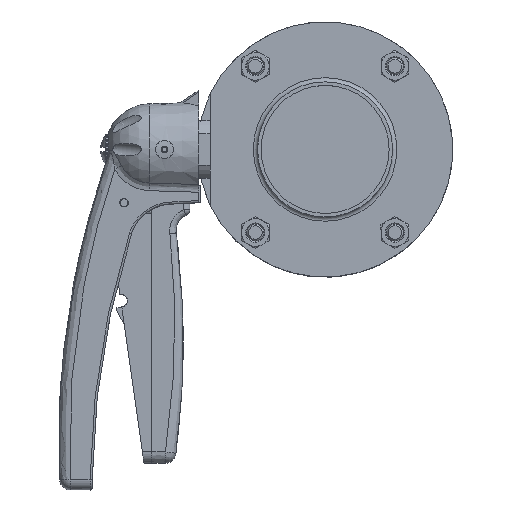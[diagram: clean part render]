
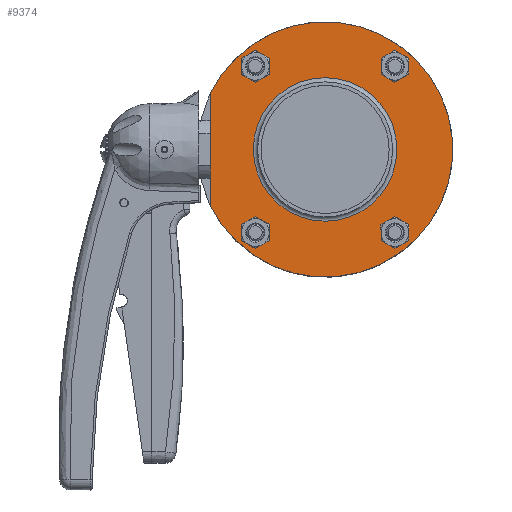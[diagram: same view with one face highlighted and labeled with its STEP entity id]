
A CAD part, top view. The second image highlights one B-rep face of the part: STEP entity #9374.
In plain terms, the highlighted planar face has unit normal (0, 0, 1) as drawn and (1, 0, 0) by its records, which use the part's own axes.
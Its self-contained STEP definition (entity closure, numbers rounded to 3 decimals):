
#1153=FACE_BOUND('',#1789,.T.);
#1154=FACE_BOUND('',#1790,.T.);
#1155=FACE_BOUND('',#1791,.T.);
#1156=FACE_BOUND('',#1792,.T.);
#1157=FACE_BOUND('',#1793,.T.);
#1226=FACE_OUTER_BOUND('',#1788,.T.);
#1788=EDGE_LOOP('',(#6477,#6478));
#1789=EDGE_LOOP('',(#6479,#6480));
#1790=EDGE_LOOP('',(#6481,#6482));
#1791=EDGE_LOOP('',(#6483,#6484));
#1792=EDGE_LOOP('',(#6485,#6486));
#1793=EDGE_LOOP('',(#6487,#6488));
#2368=LINE('',#13637,#2990);
#2990=VECTOR('',#11159,10.);
#3630=CIRCLE('',#10126,60.);
#3637=CIRCLE('',#10135,4.25);
#3638=CIRCLE('',#10136,4.25);
#3639=CIRCLE('',#10138,4.25);
#3640=CIRCLE('',#10139,4.25);
#3641=CIRCLE('',#10141,4.25);
#3642=CIRCLE('',#10142,4.25);
#3643=CIRCLE('',#10144,4.25);
#3644=CIRCLE('',#10145,4.25);
#3645=CIRCLE('',#10147,33.75);
#3646=CIRCLE('',#10148,33.75);
#4053=VERTEX_POINT('',#13635);
#4054=VERTEX_POINT('',#13636);
#4063=VERTEX_POINT('',#13660);
#4064=VERTEX_POINT('',#13661);
#4065=VERTEX_POINT('',#13666);
#4066=VERTEX_POINT('',#13667);
#4067=VERTEX_POINT('',#13672);
#4068=VERTEX_POINT('',#13673);
#4069=VERTEX_POINT('',#13678);
#4070=VERTEX_POINT('',#13679);
#4071=VERTEX_POINT('',#13684);
#4072=VERTEX_POINT('',#13685);
#4969=EDGE_CURVE('',#4053,#4054,#2368,.T.);
#4974=EDGE_CURVE('',#4054,#4053,#3630,.T.);
#4981=EDGE_CURVE('',#4063,#4064,#3637,.T.);
#4982=EDGE_CURVE('',#4064,#4063,#3638,.T.);
#4984=EDGE_CURVE('',#4065,#4066,#3639,.T.);
#4985=EDGE_CURVE('',#4066,#4065,#3640,.T.);
#4987=EDGE_CURVE('',#4067,#4068,#3641,.T.);
#4988=EDGE_CURVE('',#4068,#4067,#3642,.T.);
#4990=EDGE_CURVE('',#4069,#4070,#3643,.T.);
#4991=EDGE_CURVE('',#4070,#4069,#3644,.T.);
#4993=EDGE_CURVE('',#4071,#4072,#3645,.T.);
#4994=EDGE_CURVE('',#4072,#4071,#3646,.T.);
#6477=ORIENTED_EDGE('',*,*,#4969,.T.);
#6478=ORIENTED_EDGE('',*,*,#4974,.T.);
#6479=ORIENTED_EDGE('',*,*,#4981,.T.);
#6480=ORIENTED_EDGE('',*,*,#4982,.T.);
#6481=ORIENTED_EDGE('',*,*,#4984,.T.);
#6482=ORIENTED_EDGE('',*,*,#4985,.T.);
#6483=ORIENTED_EDGE('',*,*,#4987,.T.);
#6484=ORIENTED_EDGE('',*,*,#4988,.T.);
#6485=ORIENTED_EDGE('',*,*,#4990,.T.);
#6486=ORIENTED_EDGE('',*,*,#4991,.T.);
#6487=ORIENTED_EDGE('',*,*,#4993,.F.);
#6488=ORIENTED_EDGE('',*,*,#4994,.F.);
#9110=PLANE('',#10146);
#9374=ADVANCED_FACE('',(#1226,#1153,#1154,#1155,#1156,#1157),#9110,.T.);
#10126=AXIS2_PLACEMENT_3D('',#13645,#11167,#11168);
#10135=AXIS2_PLACEMENT_3D('',#13662,#11185,#11186);
#10136=AXIS2_PLACEMENT_3D('',#13663,#11187,#11188);
#10138=AXIS2_PLACEMENT_3D('',#13668,#11192,#11193);
#10139=AXIS2_PLACEMENT_3D('',#13669,#11194,#11195);
#10141=AXIS2_PLACEMENT_3D('',#13674,#11199,#11200);
#10142=AXIS2_PLACEMENT_3D('',#13675,#11201,#11202);
#10144=AXIS2_PLACEMENT_3D('',#13680,#11206,#11207);
#10145=AXIS2_PLACEMENT_3D('',#13681,#11208,#11209);
#10146=AXIS2_PLACEMENT_3D('',#13683,#11211,#11212);
#10147=AXIS2_PLACEMENT_3D('',#13686,#11213,#11214);
#10148=AXIS2_PLACEMENT_3D('',#13687,#11215,#11216);
#11159=DIRECTION('',(0.,0.,1.));
#11167=DIRECTION('center_axis',(1.,0.,0.));
#11168=DIRECTION('ref_axis',(0.,0.,-1.));
#11185=DIRECTION('center_axis',(-1.,0.,0.));
#11186=DIRECTION('ref_axis',(0.,0.,1.));
#11187=DIRECTION('center_axis',(-1.,0.,0.));
#11188=DIRECTION('ref_axis',(0.,0.,1.));
#11192=DIRECTION('center_axis',(-1.,0.,0.));
#11193=DIRECTION('ref_axis',(0.,0.,1.));
#11194=DIRECTION('center_axis',(-1.,0.,0.));
#11195=DIRECTION('ref_axis',(0.,0.,1.));
#11199=DIRECTION('center_axis',(-1.,0.,0.));
#11200=DIRECTION('ref_axis',(0.,0.,-1.));
#11201=DIRECTION('center_axis',(-1.,0.,0.));
#11202=DIRECTION('ref_axis',(0.,0.,-1.));
#11206=DIRECTION('center_axis',(-1.,0.,0.));
#11207=DIRECTION('ref_axis',(0.,0.,-1.));
#11208=DIRECTION('center_axis',(-1.,0.,0.));
#11209=DIRECTION('ref_axis',(0.,0.,-1.));
#11211=DIRECTION('center_axis',(1.,0.,0.));
#11212=DIRECTION('ref_axis',(0.,0.,-1.));
#11213=DIRECTION('center_axis',(1.,0.,0.));
#11214=DIRECTION('ref_axis',(0.,0.,-1.));
#11215=DIRECTION('center_axis',(1.,0.,0.));
#11216=DIRECTION('ref_axis',(0.,0.,-1.));
#13635=CARTESIAN_POINT('',(10.,54.,-26.153));
#13636=CARTESIAN_POINT('',(10.,54.,26.153));
#13637=CARTESIAN_POINT('',(10.,54.,-13.077));
#13645=CARTESIAN_POINT('Origin',(10.,0.,0.));
#13660=CARTESIAN_POINT('',(10.,32.782,43.318));
#13661=CARTESIAN_POINT('',(10.,32.782,34.818));
#13662=CARTESIAN_POINT('Origin',(10.,32.782,39.068));
#13663=CARTESIAN_POINT('Origin',(10.,32.782,39.068));
#13666=CARTESIAN_POINT('',(10.,-32.782,43.318));
#13667=CARTESIAN_POINT('',(10.,-32.782,34.818));
#13668=CARTESIAN_POINT('Origin',(10.,-32.782,39.068));
#13669=CARTESIAN_POINT('Origin',(10.,-32.782,39.068));
#13672=CARTESIAN_POINT('',(10.,32.782,-43.318));
#13673=CARTESIAN_POINT('',(10.,32.782,-34.818));
#13674=CARTESIAN_POINT('Origin',(10.,32.782,-39.068));
#13675=CARTESIAN_POINT('Origin',(10.,32.782,-39.068));
#13678=CARTESIAN_POINT('',(10.,-32.782,-43.318));
#13679=CARTESIAN_POINT('',(10.,-32.782,-34.818));
#13680=CARTESIAN_POINT('Origin',(10.,-32.782,-39.068));
#13681=CARTESIAN_POINT('Origin',(10.,-32.782,-39.068));
#13683=CARTESIAN_POINT('Origin',(10.,33.75,0.));
#13684=CARTESIAN_POINT('',(10.,33.75,0.));
#13685=CARTESIAN_POINT('',(10.,0.,33.75));
#13686=CARTESIAN_POINT('Origin',(10.,0.,0.));
#13687=CARTESIAN_POINT('Origin',(10.,0.,0.));
